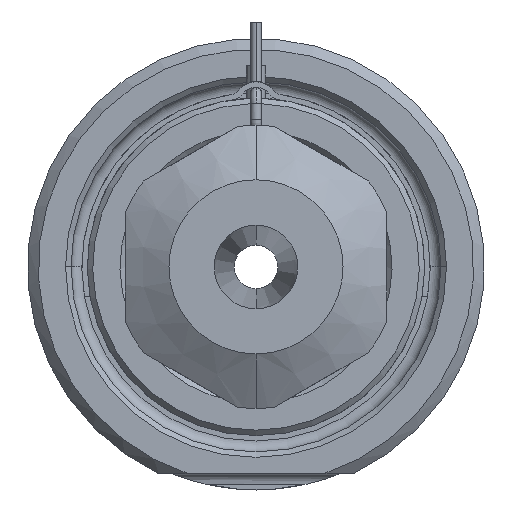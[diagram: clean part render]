
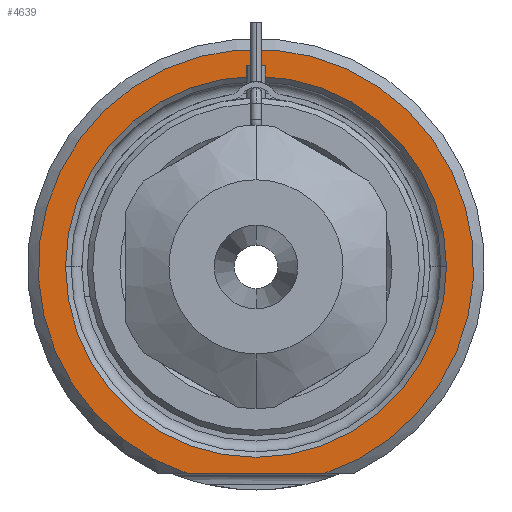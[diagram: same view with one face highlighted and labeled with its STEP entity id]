
A CAD part, front view. The second image highlights one B-rep face of the part: STEP entity #4639.
In plain terms, the highlighted planar face has unit normal (0, -1, 0).
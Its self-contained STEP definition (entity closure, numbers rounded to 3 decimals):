
#1606=CARTESIAN_POINT('',(0.,0.,0.));
#1607=DIRECTION('',(0.,-1.,0.));
#1608=DIRECTION('',(0.312,0.,-0.95));
#1609=AXIS2_PLACEMENT_3D('',#1606,#1607,#1608);
#1630=DIRECTION('',(1.,0.,0.));
#1631=VECTOR('',#1630,12.49);
#1632=CARTESIAN_POINT('',(-6.245,0.,-19.));
#1633=LINE('',#1632,#1631);
#1634=CARTESIAN_POINT('',(0.,0.,0.));
#1635=DIRECTION('',(0.,1.,0.));
#1636=DIRECTION('',(-1.,0.,0.));
#1637=AXIS2_PLACEMENT_3D('',#1634,#1635,#1636);
#1639=CARTESIAN_POINT('',(0.,0.,0.));
#1640=DIRECTION('',(0.,1.,0.));
#1641=DIRECTION('',(1.,0.,0.));
#1642=AXIS2_PLACEMENT_3D('',#1639,#1640,#1641);
#2521=CARTESIAN_POINT('',(-17.5,0.,0.));
#2522=CARTESIAN_POINT('',(17.5,0.,0.));
#2523=VERTEX_POINT('',#2521);
#2524=VERTEX_POINT('',#2522);
#2565=CARTESIAN_POINT('',(-6.245,0.,-19.));
#2566=CARTESIAN_POINT('',(6.245,0.,-19.));
#2567=VERTEX_POINT('',#2565);
#2568=VERTEX_POINT('',#2566);
#4624=CARTESIAN_POINT('',(0.,0.,0.));
#4625=DIRECTION('',(0.,-1.,0.));
#4626=DIRECTION('',(1.,0.,0.));
#4627=AXIS2_PLACEMENT_3D('',#4624,#4625,#4626);
#4628=PLANE('',#4627);
#4629=ORIENTED_EDGE('',*,*,#4556,.F.);
#4630=ORIENTED_EDGE('',*,*,#4616,.F.);
#4631=EDGE_LOOP('',(#4629,#4630));
#4632=FACE_OUTER_BOUND('',#4631,.F.);
#4634=ORIENTED_EDGE('',*,*,#4633,.F.);
#4636=ORIENTED_EDGE('',*,*,#4635,.F.);
#4637=EDGE_LOOP('',(#4634,#4636));
#4638=FACE_BOUND('',#4637,.F.);
#4639=ADVANCED_FACE('',(#4632,#4638),#4628,.T.);
#1610=CIRCLE('',#1609,20.);
#1638=CIRCLE('',#1637,17.5);
#1643=CIRCLE('',#1642,17.5);
#4556=EDGE_CURVE('',#2567,#2568,#1633,.T.);
#4616=EDGE_CURVE('',#2568,#2567,#1610,.T.);
#4633=EDGE_CURVE('',#2523,#2524,#1638,.T.);
#4635=EDGE_CURVE('',#2524,#2523,#1643,.T.);
